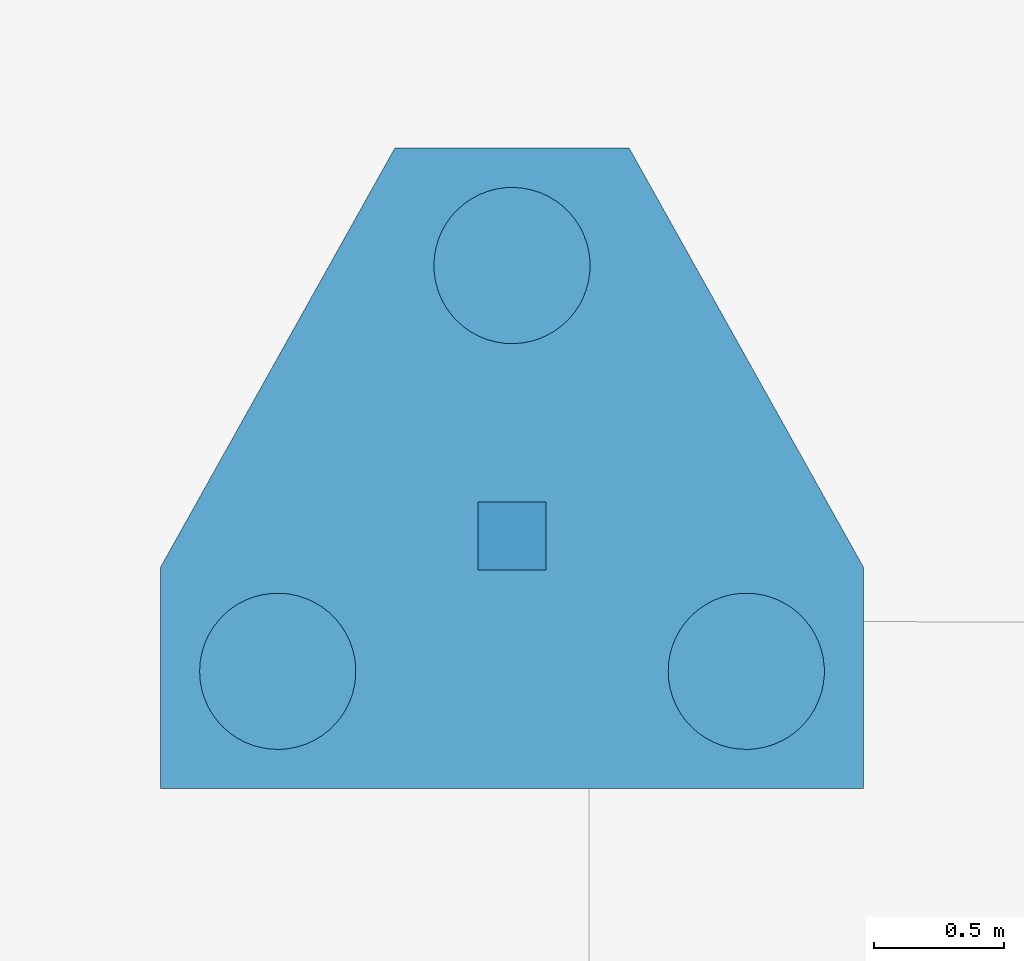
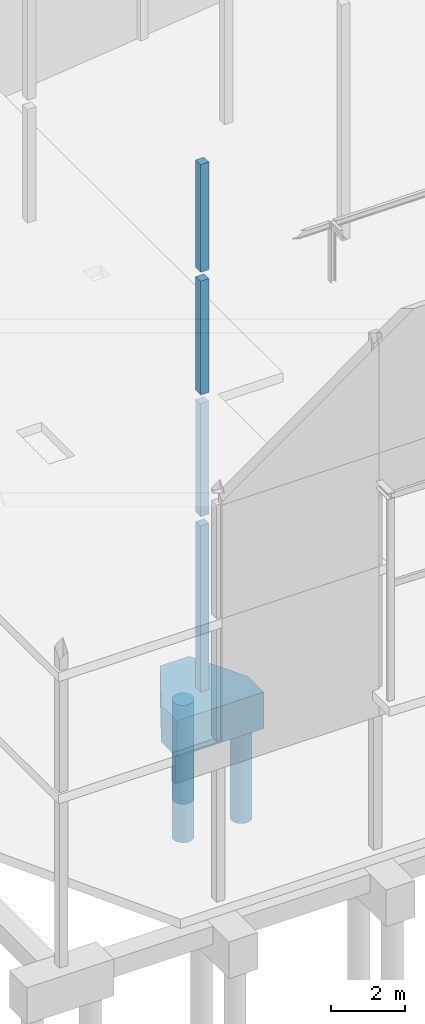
# One storey, part 6 of 82: 8 columns.
"""IFC2X3 building model written with IfcOpenShell, lengths in millimetres."""

import ifcopenshell
import ifcopenshell.guid

model = None  # the IFC model being written
_history = None  # IfcOwnerHistory: only IFC2X3 demands one
_inside = {}  # id of a spatial element -> (the spatial element, [elements in it])
_under = {}  # id of a project, library or spatial element -> (it, [spatial elements below it])
_declared = {}  # id of a project -> (the project, [libraries it declares])
_typed = {}  # id of a type object -> (the type object, [elements of that type])
_made_of = {}  # id of a material, layer set ... -> (it, [elements and type objects made of it])


def new_model(schema):
    """Start an empty IFC model of exactly this schema.

    Asked for "IFC4X3", IfcOpenShell would pick the latest addendum, in which some entities
    have other attributes; the version numbers below select the first issue.
    IFC2X3 requires an IfcOwnerHistory on every rooted entity: one is made here for all.
    """
    global model, _history
    if schema == "IFC4X3":
        model = ifcopenshell.file(schema_version=(4, 3, 0, 0))
    else:
        model = ifcopenshell.file(schema=schema)
    _inside.clear()
    _under.clear()
    _declared.clear()
    _typed.clear()
    _made_of.clear()
    _history = None
    if model.schema == "IFC2X3":
        org = make("IfcOrganization", Name="unknown")
        user = make(
            "IfcPersonAndOrganization",
            ThePerson=make("IfcPerson", FamilyName="unknown"),
            TheOrganization=org,
        )
        app = make(
            "IfcApplication",
            ApplicationDeveloper=org,
            Version="unknown",
            ApplicationFullName="unknown",
            ApplicationIdentifier="unknown",
        )
        _history = make(
            "IfcOwnerHistory",
            OwningUser=user,
            OwningApplication=app,
            ChangeAction="ADDED",
            CreationDate=0,
        )
    return model


def make(cls, **values):
    """One entity of the class cls with the attributes given. An attribute that is None is left unset."""
    return model.create_entity(
        cls, **{name: value for name, value in values.items() if value is not None}
    )


def rooted(cls, **values):
    """An entity with a GlobalId (a new one), such as an element, a storey or a relation."""
    return make(cls, GlobalId=ifcopenshell.guid.new(), OwnerHistory=_history, **values)


def si_unit(unit_type, name, prefix=None):
    """IfcSIUnit, for example si_unit("LENGTHUNIT", "METRE", prefix="MILLI")."""
    return make("IfcSIUnit", UnitType=unit_type, Prefix=prefix, Name=name)


def assignment(units):
    """IfcUnitAssignment: the units of a project."""
    return None if units is None else make("IfcUnitAssignment", Units=units)


def point(xyz):
    """IfcCartesianPoint."""
    return None if xyz is None else make("IfcCartesianPoint", Coordinates=xyz)


def direction(xyz):
    """IfcDirection."""
    return None if xyz is None else make("IfcDirection", DirectionRatios=xyz)


def frame(location, z_axis=None, x_axis=None):
    """IfcAxis2Placement3D, a coordinate frame: its origin and axes. An axis left out is left unset."""
    return make(
        "IfcAxis2Placement3D",
        Location=point(location),
        Axis=direction(z_axis),
        RefDirection=direction(x_axis),
    )


def frame_2d(location, x_axis=None):
    """IfcAxis2Placement2D, a coordinate frame in the plane: its origin and x axis."""
    return make(
        "IfcAxis2Placement2D", Location=point(location), RefDirection=direction(x_axis)
    )


def origin_with_axes():
    """The frame at (0, 0, 0) with the z axis (0, 0, 1) and the x axis (1, 0, 0) written out."""
    return frame((0.0, 0.0, 0.0), z_axis=(0.0, 0.0, 1.0), x_axis=(1.0, 0.0, 0.0))


def place(relative_to, where):
    """IfcLocalPlacement: puts the frame where relative to a parent placement (None: the world)."""
    return make(
        "IfcLocalPlacement", PlacementRelTo=relative_to, RelativePlacement=where
    )


def context(
    kind, dimensions, precision=None, world=None, true_north=None, identifier=None
):
    """IfcGeometricRepresentationContext, for example the 3D "Model" context."""
    return make(
        "IfcGeometricRepresentationContext",
        ContextIdentifier=identifier,
        ContextType=kind,
        CoordinateSpaceDimension=dimensions,
        Precision=precision,
        WorldCoordinateSystem=world,
        TrueNorth=true_north,
    )


def subcontext(parent, identifier, kind, view, scale=None):
    """IfcGeometricRepresentationSubContext, for example "Body" below "Model"."""
    return make(
        "IfcGeometricRepresentationSubContext",
        ContextIdentifier=identifier,
        ContextType=kind,
        ParentContext=parent,
        TargetScale=scale,
        TargetView=view,
    )


def project(units=None, contexts=None):
    """IfcProject with its units and contexts."""
    return rooted(
        "IfcProject",
        Name="project",
        RepresentationContexts=contexts,
        UnitsInContext=assignment(units),
    )


def spatial(cls, under=None, at=None, **own):
    """A site, building, storey or space (cls), placed at a placement, below another one or the project."""
    s = rooted(cls, ObjectPlacement=at, **own)
    if under is not None:
        _under.setdefault(under.id(), (under, []))[1].append(s)
    return s


def polyline(points):
    """IfcPolyline through the points."""
    return make("IfcPolyline", Points=[point(p) for p in points])


def profile(cls, at=None, kind="AREA", **sizes):
    """A parametric profile (cls). Its sizes go by their IFC names, for example OverallWidth=200.0."""
    return make(cls, ProfileType=kind, Position=at, **sizes)


def rectangle(**sizes):
    """IfcRectangleProfileDef."""
    return profile("IfcRectangleProfileDef", **sizes)


def circle(**sizes):
    """IfcCircleProfileDef."""
    return profile("IfcCircleProfileDef", **sizes)


def outline(outer, holes=None, kind="AREA"):
    """IfcArbitraryClosedProfileDef: a profile drawn as a closed curve; with holes, ...WithVoids."""
    if holes is None:
        return make("IfcArbitraryClosedProfileDef", ProfileType=kind, OuterCurve=outer)
    return make(
        "IfcArbitraryProfileDefWithVoids",
        ProfileType=kind,
        OuterCurve=outer,
        InnerCurves=holes,
    )


def extrude(swept, where, along, depth):
    """IfcExtrudedAreaSolid: the profile swept, set in the frame where, extruded along a direction by depth."""
    return make(
        "IfcExtrudedAreaSolid",
        SweptArea=swept,
        Position=where,
        ExtrudedDirection=direction(along),
        Depth=depth,
    )


def shape(context_of_items, identifier, shape_type, items):
    """IfcShapeRepresentation: the items that make up one representation, for example the "Body"."""
    return make(
        "IfcShapeRepresentation",
        ContextOfItems=context_of_items,
        RepresentationIdentifier=identifier,
        RepresentationType=shape_type,
        Items=items,
    )


def material(Name=None, Category=None):
    """IfcMaterial."""
    return make("IfcMaterial", Name=Name, Category=Category)


def made_of(thing, what):
    """Note that an element or type object is made of a material, layer set ...; save() writes the relation."""
    if what is not None:
        _made_of.setdefault(what.id(), (what, []))[1].append(thing)
    return thing


def type_object(cls, material=None, **own):
    """A type object (cls), such as IfcWallType, which elements share."""
    return made_of(rooted(cls, **own), material)


def element(
    cls,
    number,
    at=None,
    inside=None,
    cuts=None,
    type_object=None,
    material=None,
    context=None,
    identifier="Body",
    shape_type=None,
    held_by="IfcProductDefinitionShape",
    body=None,
    shapes=None,
    **own,
):
    """One element of the class cls, such as IfcWall. Its Tag is "e" and its number.

    at: its placement. inside: the storey or other place that contains it. cuts: it is an
    opening in that element (IfcRelVoidsElement). A single representation is given by context,
    identifier, shape_type and body (its items); several are given by shapes. held_by: the class
    of the entity that holds the representations. save() writes the other relations.
    """
    e = rooted(cls, Tag="e%d" % number, ObjectPlacement=at, **own)
    if body is not None:
        shapes = [shape(context, identifier, shape_type, body)]
    if shapes is not None:
        e.Representation = make(held_by, Representations=shapes)
    if inside is not None:
        _inside.setdefault(inside.id(), (inside, []))[1].append(e)
    if cuts is not None:
        rooted(
            "IfcRelVoidsElement", RelatingBuildingElement=cuts, RelatedOpeningElement=e
        )
    if type_object is not None:
        _typed.setdefault(type_object.id(), (type_object, []))[1].append(e)
    return made_of(e, material)


def aggregate(whole, parts):
    """IfcRelAggregates: a whole, such as a stair, and the parts it consists of."""
    return rooted("IfcRelAggregates", RelatingObject=whole, RelatedObjects=parts)


def save(model, path):
    """Write the relations noted so far, then the file.

    IfcRelAggregates (storeys below a building ...), IfcRelContainedInSpatialStructure (elements
    in a storey), IfcRelDefinesByType, IfcRelAssociatesMaterial and IfcRelDeclares: one each for
    every whole, place, type object, material and project.
    """
    for whole, parts in _under.values():
        aggregate(whole, parts)
    for where, things in _inside.values():
        rooted(
            "IfcRelContainedInSpatialStructure",
            RelatedElements=things,
            RelatingStructure=where,
        )
    for kind, things in _typed.values():
        rooted("IfcRelDefinesByType", RelatedObjects=things, RelatingType=kind)
    for what, things in _made_of.values():
        rooted("IfcRelAssociatesMaterial", RelatedObjects=things, RelatingMaterial=what)
    for by, libraries in _declared.values():
        rooted("IfcRelDeclares", RelatingContext=by, RelatedDefinitions=libraries)
    model.write(path)


model = new_model("IFC2X3")

# Units and contexts
model_context = context("Model", 3, precision=1e-05, world=origin_with_axes())
body_context = subcontext(model_context, "Body", "Model", "MODEL_VIEW")
ifc_project = project(units=[si_unit("LENGTHUNIT", "METRE", prefix="MILLI"), si_unit("AREAUNIT", "SQUARE_METRE"), si_unit("VOLUMEUNIT", "CUBIC_METRE"), si_unit("MASSUNIT", "GRAM", prefix="KILO"), si_unit("TIMEUNIT", "SECOND"), si_unit("PLANEANGLEUNIT", "RADIAN"), si_unit("SOLIDANGLEUNIT", "STERADIAN"), si_unit("THERMODYNAMICTEMPERATUREUNIT", "DEGREE_CELSIUS"), si_unit("LUMINOUSINTENSITYUNIT", "LUMEN")], contexts=[model_context])

# Site, building, storey
site_placement = place(None, origin_with_axes())
site = spatial("IfcSite", under=ifc_project, at=site_placement, Name="Undefined", CompositionType="ELEMENT")
building_placement = place(site_placement, origin_with_axes())
building = spatial("IfcBuilding", under=site, at=building_placement, Name="Undefined", CompositionType="ELEMENT")
storey_placement = place(building_placement, origin_with_axes())
storey = spatial("IfcBuildingStorey", under=building, at=storey_placement, Name="Undefined", CompositionType="ELEMENT", Elevation=0.0)

# Columns
ifc_material_1 = material(Name="CONCRETE/C25/30")
column_type_1 = type_object("IfcColumnType", Name="260*260", PredefinedType="NOTDEFINED")
column_1_placement = place(storey_placement, frame((9749.99999998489, 9299.9996872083, 13330.0), z_axis=(0.0, 0.0, 1.0), x_axis=(1.0, 0.0, 0.0)))
element("IfcColumn", 1, at=column_1_placement, inside=storey, type_object=column_type_1, material=ifc_material_1, Name="POTEAU", ObjectType="260*260", context=body_context, shape_type="SweptSolid", body=[
    extrude(rectangle(XDim=260.0, YDim=260.0, at=frame_2d((5.17284206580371e-08, 4.49290382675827e-10), x_axis=(1.0, 0.0))), frame((0.0, 0.0, 3529.99999999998), z_axis=(0.0, -6.50000002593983e-08, -0.999999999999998), x_axis=(-1.0, 0.0, 0.0)), (0.0, 0.0, 1.0), 3530.0),
])
column_2_placement = place(storey_placement, frame((9749.99999998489, 9299.9996872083, 9305.0), z_axis=(0.0, 0.0, 1.0), x_axis=(1.0, 0.0, 0.0)))
element("IfcColumn", 2, at=column_2_placement, inside=storey, type_object=column_type_1, material=ifc_material_1, Name="POTEAU", ObjectType="260*260", context=body_context, shape_type="SweptSolid", body=[
    extrude(rectangle(XDim=260.0, YDim=260.0, at=frame_2d((5.17284206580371e-08, 4.49290382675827e-10), x_axis=(1.0, 0.0))), frame((0.0, 0.0, 3725.0), z_axis=(0.0, -6.50000002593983e-08, -0.999999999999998), x_axis=(-1.0, 0.0, 0.0)), (0.0, 0.0, 1.0), 3725.0),
])
column_3_placement = place(storey_placement, frame((9749.99999998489, 9299.9996872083, 5300.0), z_axis=(0.0, 0.0, 1.0), x_axis=(1.0, 0.0, 0.0)))
element("IfcColumn", 3, at=column_3_placement, inside=storey, type_object=column_type_1, material=ifc_material_1, Name="POTEAU", ObjectType="260*260", context=body_context, shape_type="SweptSolid", body=[
    extrude(rectangle(XDim=260.0, YDim=260.0, at=frame_2d((5.17284206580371e-08, 4.49290382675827e-10), x_axis=(1.0, 0.0))), frame((0.0, 0.0, 3705.00000000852), z_axis=(0.0, -6.50000002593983e-08, -0.999999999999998), x_axis=(-1.0, 0.0, 0.0)), (0.0, 0.0, 1.0), 3705.0),
])
column_4_placement = place(storey_placement, frame((9749.99999998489, 9299.9996872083, -449.999511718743), z_axis=(0.0, 0.0, 1.0), x_axis=(1.0, 0.0, 0.0)))
element("IfcColumn", 4, at=column_4_placement, inside=storey, type_object=column_type_1, material=ifc_material_1, Name="POTEAU", ObjectType="260*260", context=body_context, shape_type="SweptSolid", body=[
    extrude(rectangle(XDim=260.0, YDim=260.0, at=frame_2d((5.17284206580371e-08, 4.49290382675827e-10), x_axis=(1.0, 0.0))), frame((0.0, 0.0, 5449.9995117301), z_axis=(0.0, -6.50000002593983e-08, -0.999999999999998), x_axis=(-1.0, 0.0, 0.0)), (0.0, 0.0, 1.0), 5450.0),
])
ifc_material_2 = material(Name="CONCRETE/C30/37")
column_type_2 = type_object("IfcColumnType", Name="1200*2460", PredefinedType="NOTDEFINED")
column_5_placement = place(storey_placement, frame((9299.99971106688, 10790.4000002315, -1050.00146572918), z_axis=(0.0, 0.0, 1.0), x_axis=(-0.487942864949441, -0.872875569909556, 0.0)))
element("IfcColumn", 5, at=column_5_placement, inside=storey, type_object=column_type_2, material=ifc_material_2, Name="SEMELLE", ObjectType="1200*2460", context=body_context, shape_type="SweptSolid", body=[
    extrude(outline(polyline([(5.17284206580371e-08, 4.49290382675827e-10), (1844.47827153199, -8.99672158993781e-09), (2586.42260747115, 414.751434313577), (1268.97668460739, 2771.51538083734), (527.032531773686, 2356.76416013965), (-439.148559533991, 785.588012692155), (5.17284206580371e-08, 4.49290382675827e-10)])), frame((0.0, 0.0, -600.0), z_axis=(0.0, 0.0, 1.0), x_axis=(1.0, 0.0, 0.0)), (0.0, 0.0, 1.0), 1200.0),
])
column_type_3 = type_object("IfcColumnType", Name="D600", PredefinedType="NOTDEFINED")
for number, where, z_axis, x_axis in (
    (6, (10649.9999999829, 8780.39999997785, -4675.0), (0.0, 0.0, 1.0), (1.0, 0.0, 0.0)),
    (7, (8849.99999998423, 8780.39999998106, -4675.0), (0.0, 0.0, 1.0), (1.0, 0.0, 0.0)),
    (8, (9749.9999999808, 10339.1999999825, -4675.0), (0.0, 0.0, 1.0), (1.0, 0.0, 0.0)),
):
    element("IfcColumn", number, at=place(storey_placement, frame(where, z_axis=z_axis, x_axis=x_axis)), inside=storey, type_object=column_type_3, material=ifc_material_1, Name="PIEU", ObjectType="D600", context=body_context, shape_type="SweptSolid", body=[
        extrude(circle(Radius=300.0, at=frame_2d((5.17284206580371e-08, 4.49290382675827e-10), x_axis=(1.0, 0.0))), frame((0.0, 0.0, 3250.0), z_axis=(0.0, -6.50000002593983e-08, -0.999999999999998), x_axis=(-1.0, 0.0, 0.0)), (0.0, 0.0, 1.0), 3250.0),
    ])

save(model, "model.ifc")
